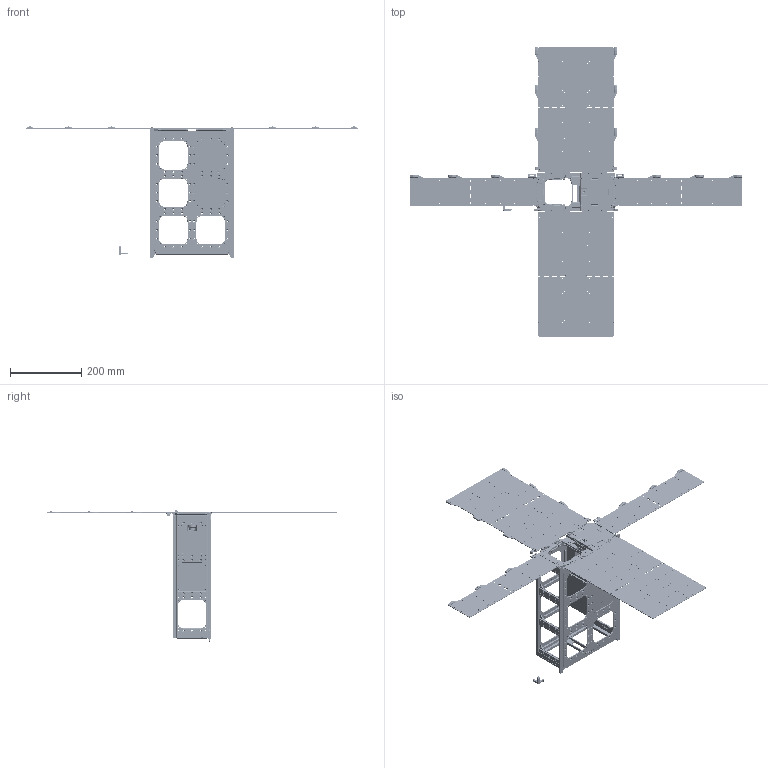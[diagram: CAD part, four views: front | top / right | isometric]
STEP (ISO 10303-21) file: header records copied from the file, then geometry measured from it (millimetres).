
FILE_DESCRIPTION (( 'STEP AP214' ), '1' );
FILE_NAME ('715-01362 SUPERNOVA Assembly Deployed.STEP', '2017-12-13T01:39:56', ( '' ), ( '' ), 'SwSTEP 2.0', 'SolidWorks 2014', '' );
FILE_SCHEMA (( 'AUTOMOTIVE_DESIGN' ));
Length unit declared in the file: inch
Products named in the file (29): TRIAD; 710-01270 SUPERNOVA 8 Cell Side Panel Opt 00_Original; PUMPKIN SPACE SYSTEMS SUPERNOVA Top Plate; 710-01270 SUPERNOVA 8 Cell Side Panel Opt 01; PUMPKIN SPACE SYSTEMS SUPERNOVA Side Plate; SUPERNOVA Bus Stack, BCT Simple; PUMPKIN SPACE SYSTEMS SUPERNOVA Structure Assembly; PUMPKIN SPACE SYSTEMS SUPERNOVA End Plate; SUPERNOVA Solar Hinge Assembly; 710-01269 SUPERNOVA 24 Cell Panel Opt 00; PUMPKIN SPACE SYSTEMS SUPERNOVA Base Plate; 710-01269 SUPERNOVA 24 Cell Panel Opt 01; 715-01362 SUPERNOVA Assembly Deployed; SUPERNOVA Solar Array_Deployed; 710-01270 SUPERNOVA 8 Cell Side Panel Opt 00; SUPERNOVA Solar Hinge Assembly PRM with Cover_Deployed; SUPERNOVA Solar Hinge Assembly PRM with Cover; SUPERNOVA Solar Hinge Assembly_Deployed; 710-01269 SUPERNOVA 24 Cell Panel Opt 00_Original
Assembly tree (16 placements, depth 3):
  TRIAD
  PUMPKIN SPACE SYSTEMS SUPERNOVA Top Plate
  PUMPKIN SPACE SYSTEMS SUPERNOVA Side Plate
  PUMPKIN SPACE SYSTEMS SUPERNOVA End Plate
  PUMPKIN SPACE SYSTEMS SUPERNOVA Side Plate
Bounding box: 935.19 x 818.59 x 369.19 mm (x, y, z)
Volume: 3050908.6 mm3; surface area: 1007285.3 mm2
Topology: 13 solids, 385 shells, 24744 faces, 62543 edges, 39344 vertices
Faces by surface type: plane 11462, cone 5673, cylinder 5025, bspline 2380, torus 142, sphere 62
Entity records: 870415 total; most frequent: CARTESIAN_POINT 239915, ORIENTED_EDGE 114740, DIRECTION 111553, EDGE_CURVE 57370, AXIS2_PLACEMENT_3D 37518, LINE 36517, VECTOR 36517, VERTEX_POINT 36102
